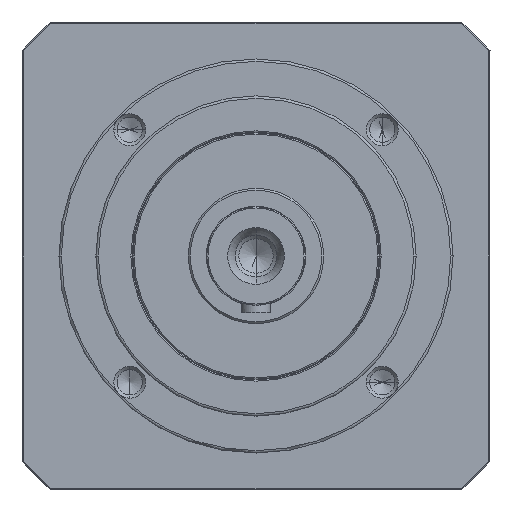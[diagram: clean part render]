
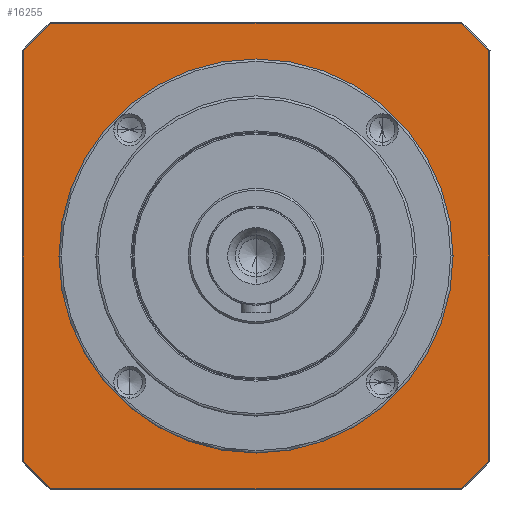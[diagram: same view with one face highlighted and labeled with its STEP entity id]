
A CAD part, left-side view. The second image highlights one B-rep face of the part: STEP entity #16255.
In plain terms, the highlighted planar face has unit normal (-1, 0, 0) as drawn and (0, 0, -1) by its records, which use the part's own axes.
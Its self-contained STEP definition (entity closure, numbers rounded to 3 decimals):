
#15137=CARTESIAN_POINT('',(0.,0.,
2.5));
#15138=DIRECTION('',(0.,0.,-1.));
#15139=DIRECTION('',(0.,-1.,0.));
#15140=AXIS2_PLACEMENT_3D('',#15137,#15138,#15139);
#15142=CARTESIAN_POINT('',(0.,0.,
2.5));
#15143=DIRECTION('',(0.,0.,-1.));
#15144=DIRECTION('',(0.,1.,0.));
#15145=AXIS2_PLACEMENT_3D('',#15142,#15143,#15144);
#15147=CARTESIAN_POINT('',(0.,0.,2.5));
#15148=DIRECTION('',(0.,0.,1.));
#15149=DIRECTION('',(-0.75,-0.661,0.));
#15150=AXIS2_PLACEMENT_3D('',#15147,#15148,#15149);
#15152=DIRECTION('',(1.,0.,0.));
#15153=VECTOR('',#15152,166.682);
#15154=CARTESIAN_POINT('',(-83.341,-94.5,
2.5));
#15155=LINE('',#15154,#15153);
#15156=CARTESIAN_POINT('',(0.,0.,2.5));
#15157=DIRECTION('',(0.,0.,1.));
#15158=DIRECTION('',(0.661,-0.75,0.));
#15159=AXIS2_PLACEMENT_3D('',#15156,#15157,#15158);
#15161=DIRECTION('',(0.,1.,0.));
#15162=VECTOR('',#15161,166.682);
#15163=CARTESIAN_POINT('',(94.5,-83.341,
2.5));
#15164=LINE('',#15163,#15162);
#15165=CARTESIAN_POINT('',(0.,0.,2.5));
#15166=DIRECTION('',(0.,0.,1.));
#15167=DIRECTION('',(0.75,0.661,0.));
#15168=AXIS2_PLACEMENT_3D('',#15165,#15166,#15167);
#15170=DIRECTION('',(-1.,0.,0.));
#15171=VECTOR('',#15170,166.682);
#15172=CARTESIAN_POINT('',(83.341,94.5,2.5));
#15173=LINE('',#15172,#15171);
#15174=CARTESIAN_POINT('',(0.,0.,2.5));
#15175=DIRECTION('',(0.,0.,1.));
#15176=DIRECTION('',(-0.661,0.75,0.));
#15177=AXIS2_PLACEMENT_3D('',#15174,#15175,#15176);
#15179=DIRECTION('',(0.,-1.,0.));
#15180=VECTOR('',#15179,166.682);
#15181=CARTESIAN_POINT('',(-94.5,83.341,
2.5));
#15182=LINE('',#15181,#15180);
#15904=CARTESIAN_POINT('',(0.,-76.5,2.5));
#15905=CARTESIAN_POINT('',(0.,76.5,
2.5));
#15906=VERTEX_POINT('',#15904);
#15907=VERTEX_POINT('',#15905);
#16008=CARTESIAN_POINT('',(-94.5,-83.341,2.5));
#16009=CARTESIAN_POINT('',(-83.341,-94.5,2.5));
#16010=VERTEX_POINT('',#16008);
#16011=VERTEX_POINT('',#16009);
#16016=CARTESIAN_POINT('',(83.341,-94.5,
2.5));
#16017=VERTEX_POINT('',#16016);
#16020=CARTESIAN_POINT('',(94.5,-83.341,2.5));
#16021=VERTEX_POINT('',#16020);
#16024=CARTESIAN_POINT('',(94.5,83.341,2.5));
#16025=VERTEX_POINT('',#16024);
#16028=CARTESIAN_POINT('',(83.341,94.5,2.5));
#16029=VERTEX_POINT('',#16028);
#16032=CARTESIAN_POINT('',(-83.341,94.5,
2.5));
#16033=VERTEX_POINT('',#16032);
#16038=CARTESIAN_POINT('',(-94.5,83.341,2.5));
#16039=VERTEX_POINT('',#16038);
#16227=CARTESIAN_POINT('',(0.,0.,2.5));
#16228=DIRECTION('',(0.,0.,1.));
#16229=DIRECTION('',(0.,1.,0.));
#16230=AXIS2_PLACEMENT_3D('',#16227,#16228,#16229);
#16231=PLANE('',#16230);
#16233=ORIENTED_EDGE('',*,*,#16232,.T.);
#16235=ORIENTED_EDGE('',*,*,#16234,.T.);
#16237=ORIENTED_EDGE('',*,*,#16236,.T.);
#16239=ORIENTED_EDGE('',*,*,#16238,.T.);
#16241=ORIENTED_EDGE('',*,*,#16240,.T.);
#16243=ORIENTED_EDGE('',*,*,#16242,.T.);
#16245=ORIENTED_EDGE('',*,*,#16244,.T.);
#16247=ORIENTED_EDGE('',*,*,#16246,.T.);
#16248=EDGE_LOOP('',(#16233,#16235,#16237,#16239,#16241,#16243,#16245,#16247));
#16249=FACE_OUTER_BOUND('',#16248,.F.);
#16251=ORIENTED_EDGE('',*,*,#16250,.T.);
#16252=ORIENTED_EDGE('',*,*,#16217,.T.);
#16253=EDGE_LOOP('',(#16251,#16252));
#16254=FACE_BOUND('',#16253,.F.);
#16255=ADVANCED_FACE('',(#16249,#16254),#16231,.F.);
#15141=CIRCLE('',#15140,76.5);
#15146=CIRCLE('',#15145,76.5);
#15151=CIRCLE('',#15150,126.);
#15160=CIRCLE('',#15159,126.);
#15169=CIRCLE('',#15168,126.);
#15178=CIRCLE('',#15177,126.);
#16217=EDGE_CURVE('',#15907,#15906,#15146,.T.);
#16232=EDGE_CURVE('',#16010,#16011,#15151,.T.);
#16234=EDGE_CURVE('',#16011,#16017,#15155,.T.);
#16236=EDGE_CURVE('',#16017,#16021,#15160,.T.);
#16238=EDGE_CURVE('',#16021,#16025,#15164,.T.);
#16240=EDGE_CURVE('',#16025,#16029,#15169,.T.);
#16242=EDGE_CURVE('',#16029,#16033,#15173,.T.);
#16244=EDGE_CURVE('',#16033,#16039,#15178,.T.);
#16246=EDGE_CURVE('',#16039,#16010,#15182,.T.);
#16250=EDGE_CURVE('',#15906,#15907,#15141,.T.);
